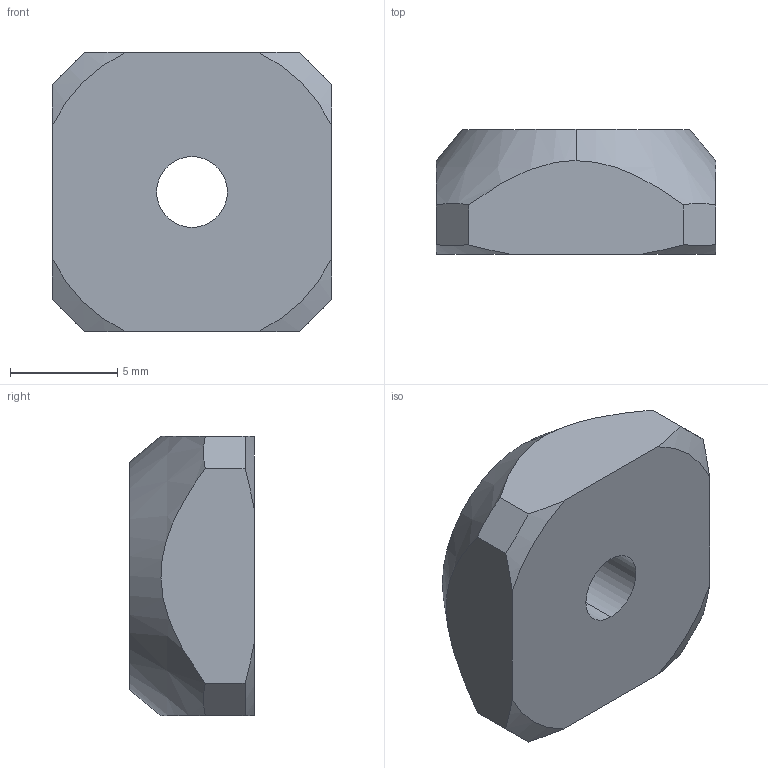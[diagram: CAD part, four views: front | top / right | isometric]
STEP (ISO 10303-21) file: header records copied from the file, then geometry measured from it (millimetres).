
FILE_DESCRIPTION (( 'STEP AP214' ), '1' );
FILE_NAME ('1.2016 Neliömutteri M4 RST.STEP', '2025-09-05T10:16:53', ( '' ), ( '' ), 'SwSTEP 2.0', 'SolidWorks 2025', '' );
FILE_SCHEMA (( 'AUTOMOTIVE_DESIGN' ));
Length unit declared in the file: millimetre
Products named in the file (1): 1.2016 Neliömutteri M4 RST
Bounding box: 13 x 5.8 x 13 mm (x, y, z)
Volume: 796.7 mm3; surface area: 573.1 mm2
Topology: 1 solids, 1 shells, 20 faces, 52 edges, 34 vertices
Faces by surface type: plane 10, cone 8, cylinder 2
Entity records: 743 total; most frequent: CARTESIAN_POINT 233, ORIENTED_EDGE 104, DIRECTION 84, EDGE_CURVE 52, VERTEX_POINT 34, AXIS2_PLACEMENT_3D 33, B_SPLINE_CURVE_WITH_KNOTS 22, EDGE_LOOP 22
